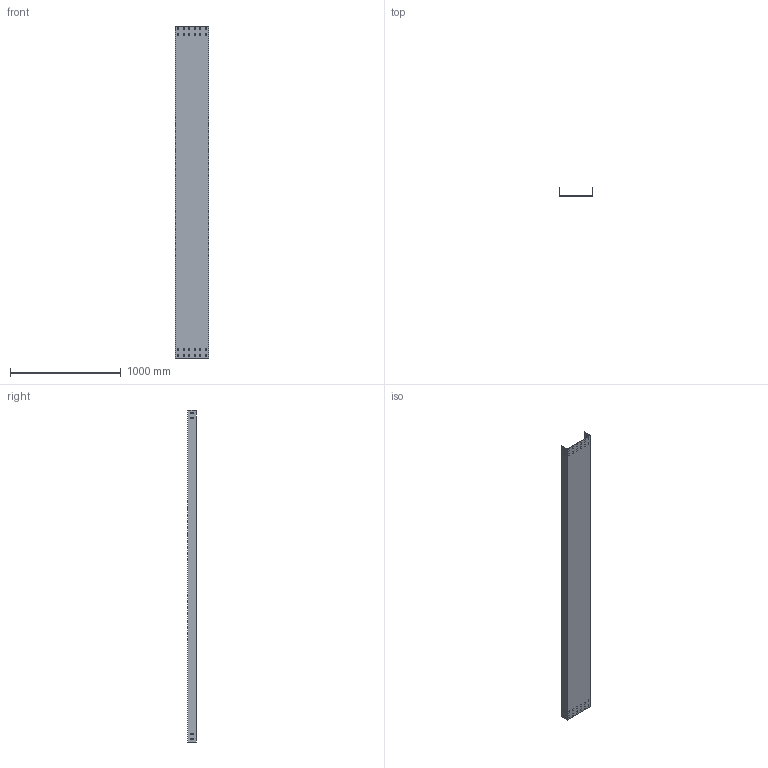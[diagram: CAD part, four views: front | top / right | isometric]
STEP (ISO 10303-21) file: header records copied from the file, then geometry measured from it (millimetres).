
FILE_DESCRIPTION (( 'STEP AP214' ), '1' );
FILE_NAME ('CF_307.step', '2025-07-16T09:05:52', ( '' ), ( '' ), 'SwSTEP 2.0', 'SolidWorks 2023', '' );
FILE_SCHEMA (( 'AUTOMOTIVE_DESIGN' ));
Length unit declared in the file: millimetre
Products named in the file (1): CF_307
Bounding box: 300 x 75 x 3000 mm (x, y, z)
Volume: 2004780 mm3; surface area: 2686141 mm2
Topology: 1 solids, 1 shells, 170 faces, 504 edges, 336 vertices
Faces by surface type: plane 170
Entity records: 5751 total; most frequent: CARTESIAN_POINT 1011, ORIENTED_EDGE 1008, DIRECTION 846, EDGE_CURVE 504, LINE 504, VECTOR 504, VERTEX_POINT 336, EDGE_LOOP 250
